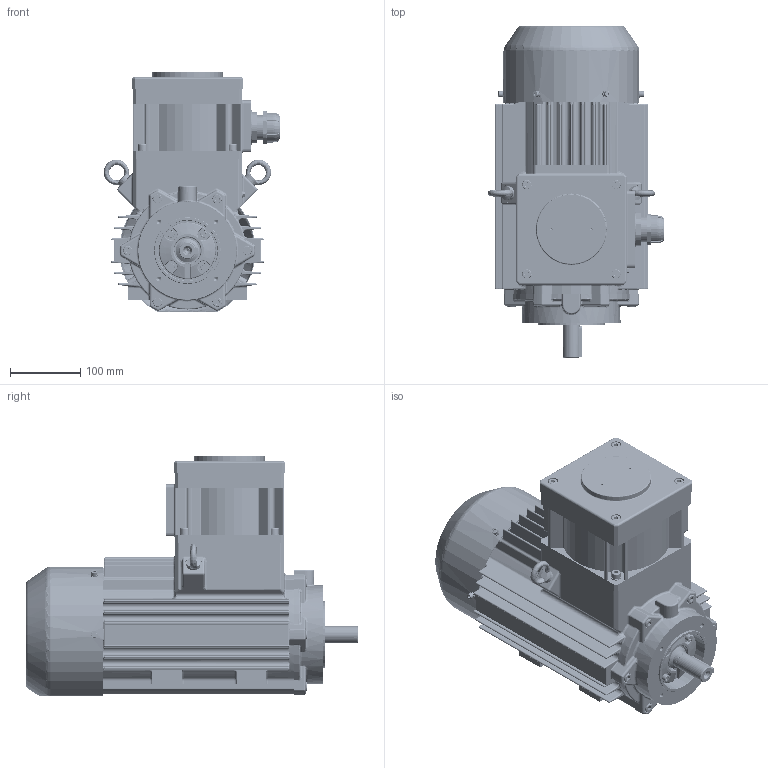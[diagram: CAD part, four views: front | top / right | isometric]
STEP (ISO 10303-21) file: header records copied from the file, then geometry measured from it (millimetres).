
FILE_DESCRIPTION(/* description */ ('Unknown'),/* implementation_level */ '2;1');
FILE_NAME(/* name */ 'Silnik cSTK1e 90 - OUTSIDE !',/* time_stamp */ '2021-12-31T10:54:54+01:00',/* author */ ('Unknown'),/* organization */ ('Unknown'),/* preprocessor_version */ 'ST-DEVELOPER v16.7',/* originating_system */ 'DEX',/* authorisation */ $);
FILE_SCHEMA (('AUTOMOTIVE_DESIGN {1 0 10303 214 3 1 1}'));
Products named in the file (1): Silnik   cSTK1e 90   -  OUTSIDE !
Bounding box: 251.61 x 473 x 343 mm (x, y, z)
Volume: 5623338.2 mm3; surface area: 1162131.6 mm2
Topology: 1 solids, 24 shells, 4733 faces, 12721 edges, 7987 vertices
Faces by surface type: cylinder 1738, plane 1699, torus 485, cone 376, bspline 337, sphere 98
Full cylindrical faces by diameter (mm): 2 x4, 3.2 x4, 4 x1, 4.019 x4, 4.134 x3, 4.48 x1, 4.773 x8, 4.917 x7, 5 x13, 5.3 x5, 6 x22, 6.466 x16, 6.5 x8, 6.647 x21, 6.88 x1, 8 x38, 8.376 x3, 8.4 x7, 8.5 x4, 9 x10, 10 x13, 11 x4, 13 x20, 15 x17, 22.376 x1, 23.376 x1, 23.6 x1, 23.8 x1, 24 x5, 24.8 x2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
Entity records: 193431 total; most frequent: CARTESIAN_POINT 47128, ORIENTED_EDGE 23456, DIRECTION 23327, EDGE_CURVE 11728, AXIS2_PLACEMENT_3D 9051, VERTEX_POINT 7701, FACE_BOUND 5817, EDGE_LOOP 5774
